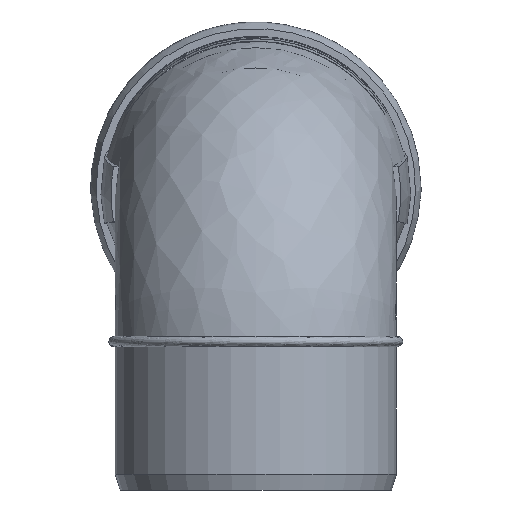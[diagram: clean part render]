
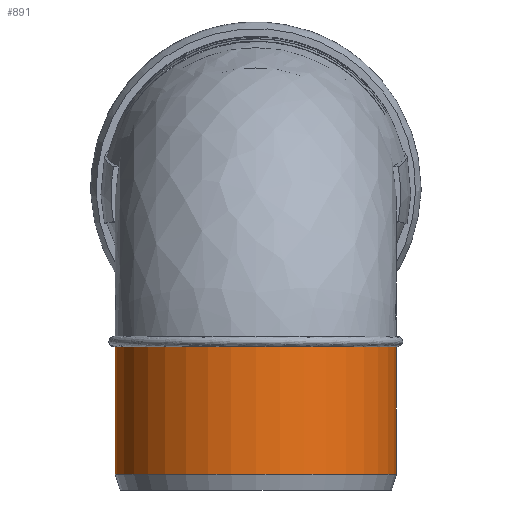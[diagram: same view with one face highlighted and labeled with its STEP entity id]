
A CAD part, left-side view. The second image highlights one B-rep face of the part: STEP entity #891.
In plain terms, the highlighted cylindrical face has radius 80.125 mm (diameter 160.25 mm), a full revolution.
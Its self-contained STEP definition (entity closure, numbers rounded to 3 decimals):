
#55=FACE_BOUND('',#170,.T.);
#83=CYLINDRICAL_SURFACE('',#958,80.125);
#116=FACE_OUTER_BOUND('',#169,.T.);
#169=EDGE_LOOP('',(#583,#584,#585));
#170=EDGE_LOOP('',(#586));
#242=CIRCLE('',#947,80.125);
#245=CIRCLE('',#950,80.125);
#249=CIRCLE('',#959,80.125);
#250=CIRCLE('',#960,80.125);
#350=VERTEX_POINT('',#1467);
#354=VERTEX_POINT('',#1526);
#355=VERTEX_POINT('',#1534);
#359=VERTEX_POINT('',#1551);
#447=EDGE_CURVE('',#355,#354,#242,.T.);
#450=EDGE_CURVE('',#350,#355,#245,.T.);
#454=EDGE_CURVE('',#354,#350,#249,.T.);
#455=EDGE_CURVE('',#359,#359,#250,.T.);
#583=ORIENTED_EDGE('',*,*,#454,.T.);
#584=ORIENTED_EDGE('',*,*,#450,.T.);
#585=ORIENTED_EDGE('',*,*,#447,.T.);
#586=ORIENTED_EDGE('',*,*,#455,.F.);
#891=ADVANCED_FACE('',(#116,#55),#83,.T.);
#947=AXIS2_PLACEMENT_3D('',#1535,#1043,#1044);
#950=AXIS2_PLACEMENT_3D('',#1539,#1049,#1050);
#958=AXIS2_PLACEMENT_3D('',#1549,#1065,#1066);
#959=AXIS2_PLACEMENT_3D('',#1550,#1067,#1068);
#960=AXIS2_PLACEMENT_3D('',#1552,#1069,#1070);
#1043=DIRECTION('center_axis',(0.,0.,-1.));
#1044=DIRECTION('ref_axis',(1.,0.,0.));
#1049=DIRECTION('center_axis',(0.,0.,-1.));
#1050=DIRECTION('ref_axis',(1.,0.,0.));
#1065=DIRECTION('center_axis',(0.,0.,-1.));
#1066=DIRECTION('ref_axis',(0.,1.,0.));
#1067=DIRECTION('center_axis',(0.,0.,-1.));
#1068=DIRECTION('ref_axis',(1.,0.,0.));
#1069=DIRECTION('center_axis',(0.,0.,-1.));
#1070=DIRECTION('ref_axis',(1.,0.,0.));
#1467=CARTESIAN_POINT('',(0.,-80.125,81.6));
#1526=CARTESIAN_POINT('',(0.,80.125,81.6));
#1534=CARTESIAN_POINT('',(-80.125,0.,81.6));
#1535=CARTESIAN_POINT('Origin',(0.,0.,81.6));
#1539=CARTESIAN_POINT('Origin',(0.,0.,81.6));
#1549=CARTESIAN_POINT('Origin',(0.,0.,45.3));
#1550=CARTESIAN_POINT('Origin',(0.,0.,81.6));
#1551=CARTESIAN_POINT('',(0.,80.125,9.));
#1552=CARTESIAN_POINT('Origin',(0.,0.,9.));
